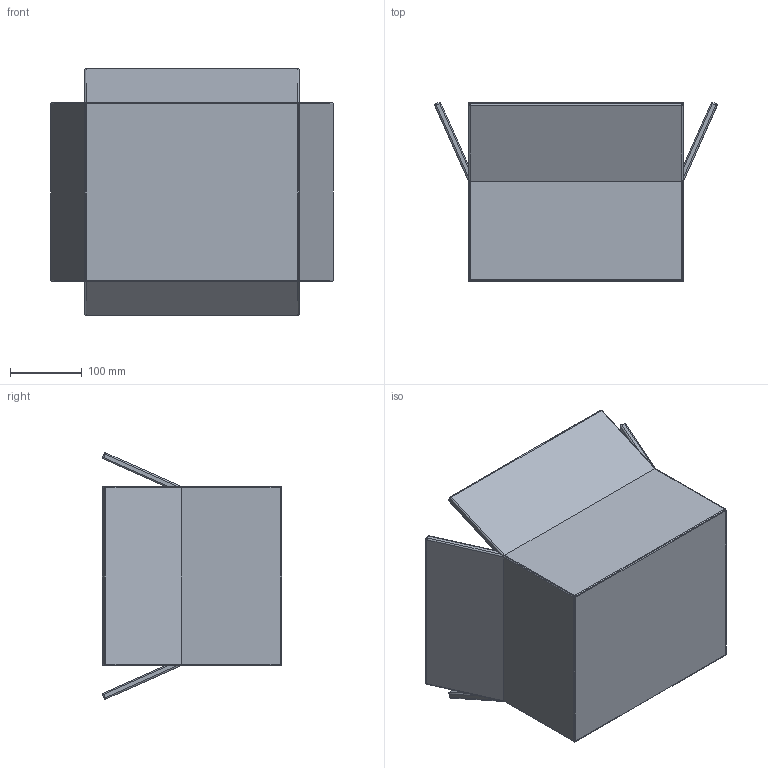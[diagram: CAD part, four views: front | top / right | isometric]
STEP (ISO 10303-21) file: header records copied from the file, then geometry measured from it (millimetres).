
FILE_DESCRIPTION (( 'STEP AP203' ), '1' );
FILE_NAME ('ORIGINAL TABLE BOX.STEP', '2023-09-16T12:29:04', ( '' ), ( '' ), 'SwSTEP 2.0', 'SolidWorks 2023', '' );
FILE_SCHEMA (( 'CONFIG_CONTROL_DESIGN' ));
Length unit declared in the file: millimetre
Products named in the file (2): Group1^ORIGINAL TABLE BOX; ORIGINAL TABLE BOX
Assembly tree (1 placements, depth 2):
  ORIGINAL TABLE BOX
    Group1^ORIGINAL TABLE BOX
Bounding box: 393.98 x 250 x 343.98 mm (x, y, z)
Volume: 4216894.9 mm3; surface area: 686081.7 mm2
Topology: 1 solids, 1 shells, 122 faces, 260 edges, 128 vertices
Faces by surface type: cylinder 48, plane 42, sphere 32
Entity records: 3200 total; most frequent: DIRECTION 576, CARTESIAN_POINT 534, ORIENTED_EDGE 480, EDGE_CURVE 240, AXIS2_PLACEMENT_3D 226, LINE 124, VECTOR 124, FACE_OUTER_BOUND 122
